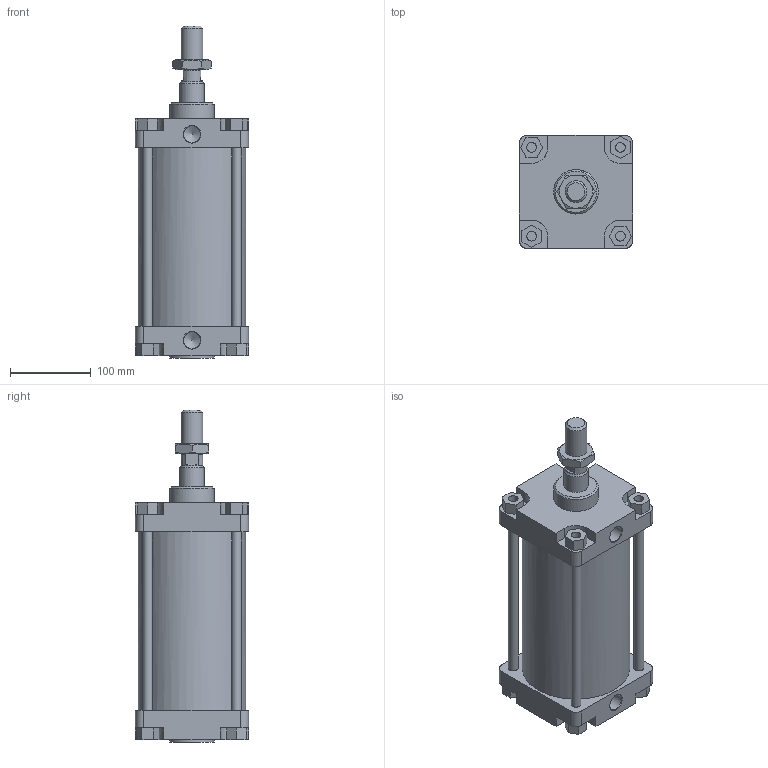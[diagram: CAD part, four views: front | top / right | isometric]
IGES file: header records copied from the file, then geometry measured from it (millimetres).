
Global section: file name: 1305_125_0125_01A; native system: Autodesk Inventor 2014; preprocessor: unknown; author: A. Manieri; date: 20161124.143234; units: millimetre
Bounding box: 140 x 140 x 411 mm (x, y, z)
Volume: 3135877.3 mm3; surface area: 453890.3 mm2
Topology: 9 solids, 9 shells, 175 faces, 440 edges, 295 vertices
Faces by surface type: bspline 175
